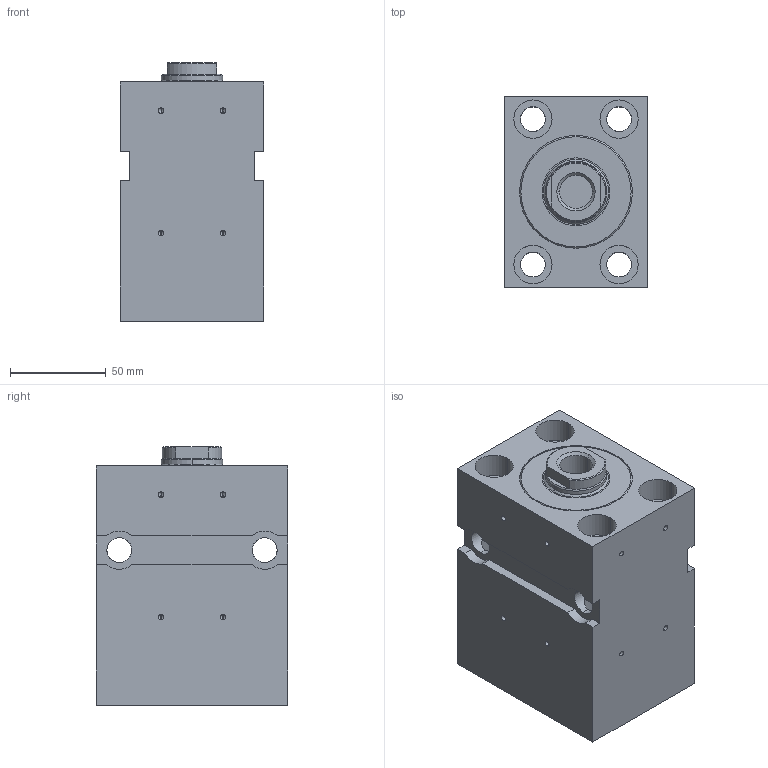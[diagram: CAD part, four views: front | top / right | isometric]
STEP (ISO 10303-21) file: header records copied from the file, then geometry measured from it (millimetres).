
FILE_DESCRIPTION (( 'STEP AP203' ), '1' );
FILE_NAME ('BZ_500.50_32.78.201.060 PP.KBC44__DH_0_.STEP', '2022-05-30T10:36:40', ( '' ), ( '' ), 'SwSTEP 2.0', 'SolidWorks 2020', '' );
FILE_SCHEMA (( 'CONFIG_CONTROL_DESIGN' ));
Length unit declared in the file: millimetre
Products named in the file (6): BZ_500.50_32.78.201.060 PP.KBC44__DH_0_; _Kolbenstange komplett f. BZ_RZ_FZ.50_32.xx.201.60(0_11 1 20 2.5 0 0 10 30 0 0 0)0^BZ_500.50_32.78.201.060 PP.KBC44__DH_0_(2)_BZ_500.50_32.78.201.060 PP.KBC44__DH_0_; _Verschraubung komplett mit Dichtung f. BZ_RZ_FZ.50_32.201, Art.-Nr._ 042986(201)^BZ_500.50_32.78.201.060 PP.KBC44__DH_0_(2)_BZ_500.50_32.78.201.060 PP.KBC44__DH_0_; BZ_500.50_32.78.201.060 PP.KBC44__DH_0_(2)^BZ_500.50_32.78.201.060 PP.KBC44__DH_0_; _Dichtungssatz f. BZ_RZ_FZ.50_32.xx.201.60 Artikelnr._ 013676(0)^BZ_500.50_32.78.201.060 PP.KBC44__DH_0_(2)_BZ_500.50_32.78.201.060 PP.KBC44__DH_0_; _Gehaeuse f. BZ500.50_32.Fehler in IDBF.201.60Fehler in IDNT00(1344frei278000))7^BZ_500.50_32.78.201.060 PP.KBC44__DH_0_(2)_BZ_500.50_32.78.201.060 PP.KBC44__DH_0_
Assembly tree (5 placements, depth 3):
  BZ_500.50_32.78.201.060 PP.KBC44__DH_0_
    BZ_500.50_32.78.201.060 PP.KBC44__DH_0_(2)^BZ_500.50_32.78.201.060 PP.KBC44__DH_0_
      _Gehaeuse f. BZ500.50_32.Fehler in IDBF.201.60Fehler in IDNT00(1344frei278000))7^BZ_500.50_32.78.201.060 PP.KBC44__DH_0_(2)_BZ_500.50_32.78.201.060 PP.KBC44__DH_0_
      _Verschraubung komplett mit Dichtung f. BZ_RZ_FZ.50_32.201, Art.-Nr._ 042986(201)^BZ_500.50_32.78.201.060 PP.KBC44__DH_0_(2)_BZ_500.50_32.78.201.060 PP.KBC44__DH_0_
      _Dichtungssatz f. BZ_RZ_FZ.50_32.xx.201.60 Artikelnr._ 013676(0)^BZ_500.50_32.78.201.060 PP.KBC44__DH_0_(2)_BZ_500.50_32.78.201.060 PP.KBC44__DH_0_
      _Kolbenstange komplett f. BZ_RZ_FZ.50_32.xx.201.60(0_11 1 20 2.5 0 0 10 30 0 0 0)0^BZ_500.50_32.78.201.060 PP.KBC44__DH_0_(2)_BZ_500.50_32.78.201.060 PP.KBC44__DH_0_
Bounding box: 75 x 100 x 135 mm (x, y, z)
Volume: 749258.1 mm3; surface area: 139380.2 mm2
Topology: 4 solids, 4 shells, 208 faces, 506 edges, 303 vertices
Faces by surface type: cylinder 118, plane 52, cone 38
Entity records: 6791 total; most frequent: CARTESIAN_POINT 1288, DIRECTION 1095, ORIENTED_EDGE 964, EDGE_CURVE 482, AXIS2_PLACEMENT_3D 436, VERTEX_POINT 303, EDGE_LOOP 257, LINE 223
